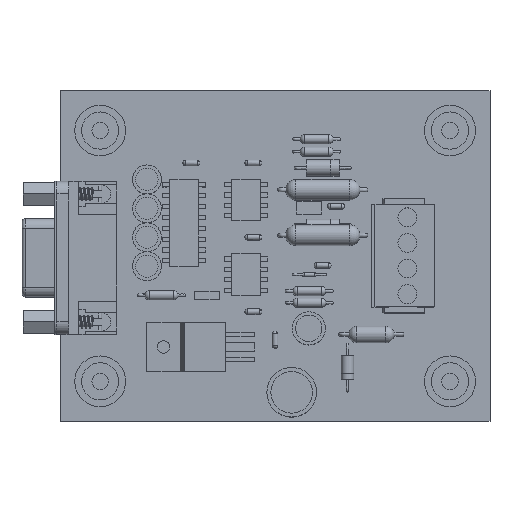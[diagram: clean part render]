
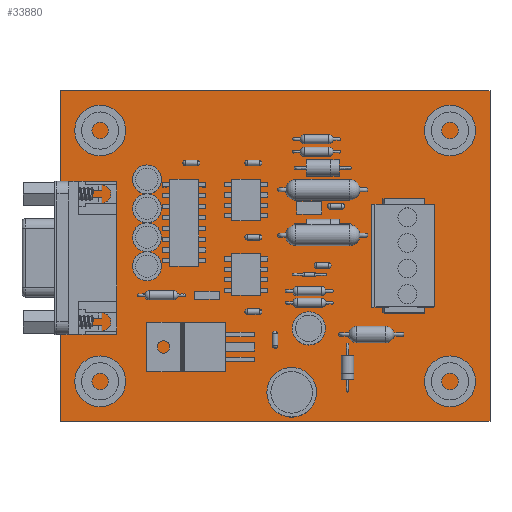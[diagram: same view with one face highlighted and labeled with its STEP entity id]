
A CAD part, top view. The second image highlights one B-rep face of the part: STEP entity #33880.
In plain terms, the highlighted planar face has unit normal (0, 0, 1).
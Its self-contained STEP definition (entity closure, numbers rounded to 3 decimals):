
#33777=CARTESIAN_POINT('',(-21.002,-167.474,2.54));
#33778=VERTEX_POINT('',#33777);
#33785=CARTESIAN_POINT('',(-21.002,-231.1,2.54));
#33786=VERTEX_POINT('',#33785);
#33787=CARTESIAN_POINT('',(-21.002,-231.1,2.54));
#33788=DIRECTION('',(0.0,1.0,0.0));
#33789=VECTOR('',#33788,63.626);
#33790=LINE('',#33787,#33789);
#33791=EDGE_CURVE('',#33786,#33778,#33790,.T.);
#33816=CARTESIAN_POINT('',(-103.704,-167.474,2.54));
#33817=VERTEX_POINT('',#33816);
#33824=CARTESIAN_POINT('',(-21.002,-167.474,2.54));
#33825=DIRECTION('',(-1.0,0.0,0.0));
#33826=VECTOR('',#33825,82.702);
#33827=LINE('',#33824,#33826);
#33828=EDGE_CURVE('',#33778,#33817,#33827,.T.);
#33857=CARTESIAN_POINT('',(-62.353,-231.1,2.54));
#33858=DIRECTION('',(0.0,0.0,1.0));
#33859=DIRECTION('',(1.0,0.0,0.0));
#33860=AXIS2_PLACEMENT_3D('',#33857,#33858,#33859);
#33861=PLANE('',#33860);
#33862=ORIENTED_EDGE('',*,*,#33791,.T.);
#33863=ORIENTED_EDGE('',*,*,#33828,.T.);
#33864=CARTESIAN_POINT('',(-103.704,-231.1,2.54));
#33865=VERTEX_POINT('',#33864);
#33866=CARTESIAN_POINT('',(-103.704,-167.474,2.54));
#33867=DIRECTION('',(0.0,-1.0,0.0));
#33868=VECTOR('',#33867,63.626);
#33869=LINE('',#33866,#33868);
#33870=EDGE_CURVE('',#33817,#33865,#33869,.T.);
#33871=ORIENTED_EDGE('',*,*,#33870,.T.);
#33872=CARTESIAN_POINT('',(-103.704,-231.1,2.54));
#33873=DIRECTION('',(1.0,0.0,0.0));
#33874=VECTOR('',#33873,82.702);
#33875=LINE('',#33872,#33874);
#33876=EDGE_CURVE('',#33865,#33786,#33875,.T.);
#33877=ORIENTED_EDGE('',*,*,#33876,.T.);
#33878=EDGE_LOOP('',(#33862,#33863,#33871,#33877));
#33879=FACE_OUTER_BOUND('',#33878,.T.);
#33880=ADVANCED_FACE('',(#33879),#33861,.T.);
